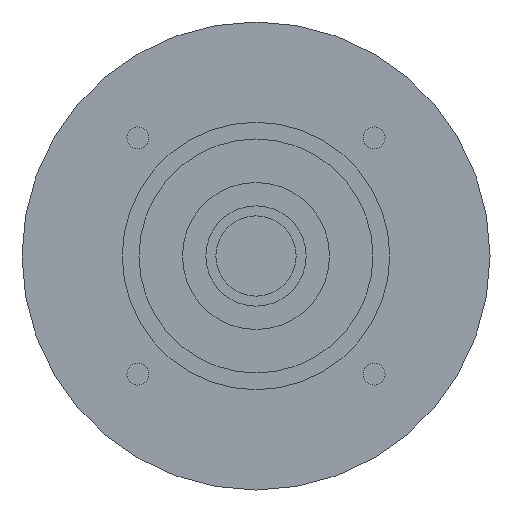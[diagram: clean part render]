
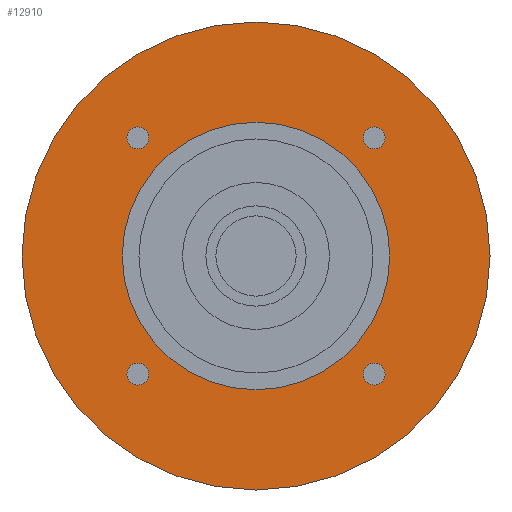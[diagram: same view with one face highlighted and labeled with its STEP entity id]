
A CAD part, left-side view. The second image highlights one B-rep face of the part: STEP entity #12910.
In plain terms, the highlighted planar face has unit normal (-1, 0, 0) as drawn and (0, 0, -1) by its records, which use the part's own axes.
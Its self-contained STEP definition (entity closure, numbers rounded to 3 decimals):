
#11790=CARTESIAN_POINT('',(70.,0.,-59.701));
#11800=VERTEX_POINT('',#11790);
#11830=CARTESIAN_POINT('',(0.,0.,
-59.701));
#11840=DIRECTION('',(0.,0.,-1.));
#11850=DIRECTION('',(-1.,0.,0.));
#11860=AXIS2_PLACEMENT_3D('',#11830,#11840,#11850);
#11870=CIRCLE('',#11860,70.);
#11880=CARTESIAN_POINT('',(-70.,0.,-59.701));
#11890=VERTEX_POINT('',#11880);
#11900=EDGE_CURVE('',#11800,#11890,#11870,.T.);
#12020=CARTESIAN_POINT('',(0.,0.,
-59.701));
#12030=DIRECTION('',(0.,0.,-1.));
#12040=DIRECTION('',(1.,0.,0.));
#12050=AXIS2_PLACEMENT_3D('',#12020,#12030,#12040);
#12060=PLANE('',#12050);
#12070=CARTESIAN_POINT('',(35.355,-35.355,-59.701));
#12080=DIRECTION('',(0.,0.,-1.));
#12090=DIRECTION('',(1.,0.,0.));
#12100=AXIS2_PLACEMENT_3D('',#12070,#12080,#12090);
#12110=CIRCLE('',#12100,3.25);
#12120=CARTESIAN_POINT('',(38.605,-35.355,-59.701));
#12130=VERTEX_POINT('',#12120);
#12140=CARTESIAN_POINT('',(32.105,-35.355,-59.701));
#12150=VERTEX_POINT('',#12140);
#12160=EDGE_CURVE('',#12130,#12150,#12110,.T.);
#12170=ORIENTED_EDGE('',*,*,#12160,.F.);
#12180=EDGE_CURVE('',#12150,#12130,#12110,.T.);
#12190=ORIENTED_EDGE('',*,*,#12180,.F.);
#12200=EDGE_LOOP('',(#12190,#12170));
#12210=FACE_BOUND('',#12200,.T.);
#12220=CARTESIAN_POINT('',(35.355,35.355,-59.701));
#12230=DIRECTION('',(0.,0.,-1.));
#12240=DIRECTION('',(0.,1.,0.));
#12250=AXIS2_PLACEMENT_3D('',#12220,#12230,#12240);
#12260=CIRCLE('',#12250,3.25);
#12270=CARTESIAN_POINT('',(35.355,38.605,-59.701));
#12280=VERTEX_POINT('',#12270);
#12290=CARTESIAN_POINT('',(35.355,32.105,-59.701));
#12300=VERTEX_POINT('',#12290);
#12310=EDGE_CURVE('',#12280,#12300,#12260,.T.);
#12320=ORIENTED_EDGE('',*,*,#12310,.F.);
#12330=EDGE_CURVE('',#12300,#12280,#12260,.T.);
#12340=ORIENTED_EDGE('',*,*,#12330,.F.);
#12350=EDGE_LOOP('',(#12340,#12320));
#12360=FACE_BOUND('',#12350,.T.);
#12370=CARTESIAN_POINT('',(-35.355,35.355,-59.701));
#12380=DIRECTION('',(0.,0.,-1.));
#12390=DIRECTION('',(-1.,0.,0.));
#12400=AXIS2_PLACEMENT_3D('',#12370,#12380,#12390);
#12410=CIRCLE('',#12400,3.25);
#12420=CARTESIAN_POINT('',(-38.605,35.355,-59.701));
#12430=VERTEX_POINT('',#12420);
#12440=CARTESIAN_POINT('',(-32.105,35.355,-59.701));
#12450=VERTEX_POINT('',#12440);
#12460=EDGE_CURVE('',#12430,#12450,#12410,.T.);
#12470=ORIENTED_EDGE('',*,*,#12460,.F.);
#12480=EDGE_CURVE('',#12450,#12430,#12410,.T.);
#12490=ORIENTED_EDGE('',*,*,#12480,.F.);
#12500=EDGE_LOOP('',(#12490,#12470));
#12510=FACE_BOUND('',#12500,.T.);
#12520=CARTESIAN_POINT('',(-35.355,-35.355,-59.701))
;
#12530=DIRECTION('',(0.,0.,-1.));
#12540=DIRECTION('',(0.,-1.,0.));
#12550=AXIS2_PLACEMENT_3D('',#12520,#12530,#12540);
#12560=CIRCLE('',#12550,3.25);
#12570=CARTESIAN_POINT('',(-35.355,-38.605,-59.701))
;
#12580=VERTEX_POINT('',#12570);
#12590=CARTESIAN_POINT('',(-35.355,-32.105,-59.701))
;
#12600=VERTEX_POINT('',#12590);
#12610=EDGE_CURVE('',#12580,#12600,#12560,.T.);
#12620=ORIENTED_EDGE('',*,*,#12610,.F.);
#12630=EDGE_CURVE('',#12600,#12580,#12560,.T.);
#12640=ORIENTED_EDGE('',*,*,#12630,.F.);
#12650=EDGE_LOOP('',(#12640,#12620));
#12660=FACE_BOUND('',#12650,.T.);
#12670=CARTESIAN_POINT('',(0.,0.,
-59.701));
#12680=DIRECTION('',(0.,0.,1.));
#12690=DIRECTION('',(0.,1.,0.));
#12700=AXIS2_PLACEMENT_3D('',#12670,#12680,#12690);
#12710=CIRCLE('',#12700,40.);
#12720=CARTESIAN_POINT('',(-40.,0.,-59.701));
#12730=VERTEX_POINT('',#12720);
#12740=CARTESIAN_POINT('',(40.,0.,-59.701));
#12750=VERTEX_POINT('',#12740);
#12760=EDGE_CURVE('',#12730,#12750,#12710,.T.);
#12770=ORIENTED_EDGE('',*,*,#12760,.T.);
#12780=CARTESIAN_POINT('',(0.,40.,-59.701));
#12790=VERTEX_POINT('',#12780);
#12800=EDGE_CURVE('',#12790,#12730,#12710,.T.);
#12810=ORIENTED_EDGE('',*,*,#12800,.T.);
#12820=EDGE_CURVE('',#12750,#12790,#12710,.T.);
#12830=ORIENTED_EDGE('',*,*,#12820,.T.);
#12840=EDGE_LOOP('',(#12830,#12810,#12770));
#12850=FACE_BOUND('',#12840,.T.);
#12860=EDGE_CURVE('',#11890,#11800,#11870,.T.);
#12870=ORIENTED_EDGE('',*,*,#12860,.T.);
#12880=ORIENTED_EDGE('',*,*,#11900,.T.);
#12890=EDGE_LOOP('',(#12880,#12870));
#12900=FACE_OUTER_BOUND('',#12890,.T.);
#12910=ADVANCED_FACE('',(#12210,#12360,#12510,#12660,#12850,#12900),
#12060,.T.);
